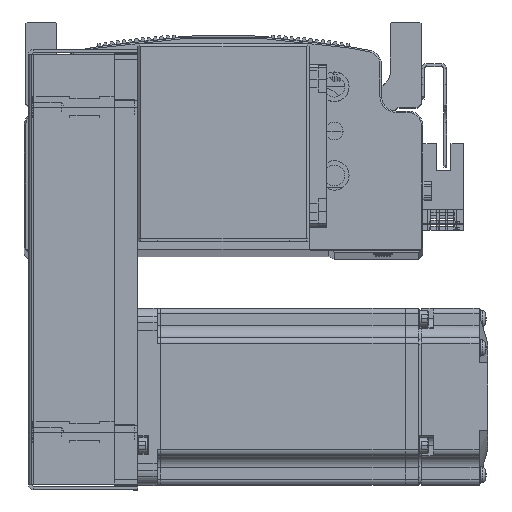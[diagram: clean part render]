
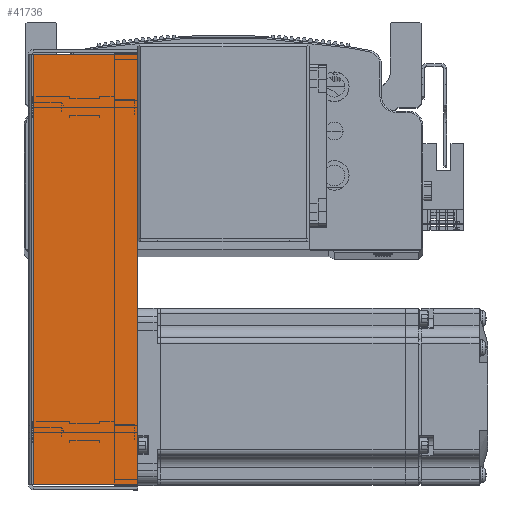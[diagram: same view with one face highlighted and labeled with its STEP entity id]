
A CAD part, top view. The second image highlights one B-rep face of the part: STEP entity #41736.
In plain terms, the highlighted planar face has unit normal (0, 0, 1) as drawn and (0, 0, -1) by its records, which use the part's own axes.
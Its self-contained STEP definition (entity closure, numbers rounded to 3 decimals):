
#11376 = CARTESIAN_POINT ( 'NONE',  ( -72.793, 0., -34.5 ) ) ;
#11416 = DIRECTION ( 'NONE',  ( 0., 1., 0. ) ) ;
#12719 = CARTESIAN_POINT ( 'NONE',  ( 0., 36., -34.5 ) ) ;
#12758 = DIRECTION ( 'NONE',  ( 1., 0., 0. ) ) ;
#12764 = CARTESIAN_POINT ( 'NONE',  ( 72.793, 0., -34.5 ) ) ;
#12788 = DIRECTION ( 'NONE',  ( 0., 1., 0. ) ) ;
#22960 = VERTEX_POINT ( 'NONE', #24645 ) ;
#23021 = VERTEX_POINT ( 'NONE', #24808 ) ;
#23056 = VERTEX_POINT ( 'NONE', #24962 ) ;
#23065 = VERTEX_POINT ( 'NONE', #24869 ) ;
#24645 = CARTESIAN_POINT ( 'NONE',  ( 72.793, 0.737, -34.5 ) ) ;
#24808 = CARTESIAN_POINT ( 'NONE',  ( -72.793, 0.737, -34.5 ) ) ;
#24869 = CARTESIAN_POINT ( 'NONE',  ( -72.793, 36., -34.5 ) ) ;
#24962 = CARTESIAN_POINT ( 'NONE',  ( 72.793, 36., -34.5 ) ) ;
#27728 = ORIENTED_EDGE ( 'NONE', *, *, #37514, .F. ) ;
#27741 = ORIENTED_EDGE ( 'NONE', *, *, #37683, .T. ) ;
#27746 = ORIENTED_EDGE ( 'NONE', *, *, #73108, .F. ) ;
#37514 = EDGE_CURVE ( 'NONE', #22960, #23056, #67726, .T. ) ;
#37533 = EDGE_CURVE ( 'NONE', #23065, #23056, #67715, .T. ) ;
#37683 = EDGE_CURVE ( 'NONE', #23021, #23065, #67897, .T. ) ;
#41736 = ADVANCED_FACE ( 'NONE', ( #61339 ), #50937, .F. ) ;
#50917 = DIRECTION ( 'NONE',  ( 0., -1., 0. ) ) ;
#50937 = PLANE ( 'NONE',  #81892 ) ;
#50964 = CARTESIAN_POINT ( 'NONE',  ( 0., 0., -34.5 ) ) ;
#50971 = DIRECTION ( 'NONE',  ( 0., 0., 1. ) ) ;
#61339 = FACE_OUTER_BOUND ( 'NONE', #70747, .T. ) ;
#66345 = CARTESIAN_POINT ( 'NONE',  ( 74.5, 0.737, -34.5 ) ) ;
#66366 = DIRECTION ( 'NONE',  ( 1., 0., 0. ) ) ;
#67715 = LINE ( 'NONE', #12719, #67750 ) ;
#67726 = LINE ( 'NONE', #12764, #67743 ) ;
#67743 = VECTOR ( 'NONE', #12788, 1000. ) ;
#67750 = VECTOR ( 'NONE', #12758, 1000. ) ;
#67897 = LINE ( 'NONE', #11376, #67898 ) ;
#67898 = VECTOR ( 'NONE', #11416, 1000. ) ;
#68758 = VECTOR ( 'NONE', #66366, 1000. ) ;
#68772 = LINE ( 'NONE', #66345, #68758 ) ;
#70747 = EDGE_LOOP ( 'NONE', ( #27746, #27741, #77266, #27728 ) ) ;
#73108 = EDGE_CURVE ( 'NONE', #23021, #22960, #68772, .T. ) ;
#77266 = ORIENTED_EDGE ( 'NONE', *, *, #37533, .T. ) ;
#81892 = AXIS2_PLACEMENT_3D ( 'NONE', #50964, #50971, #50917 ) ;
